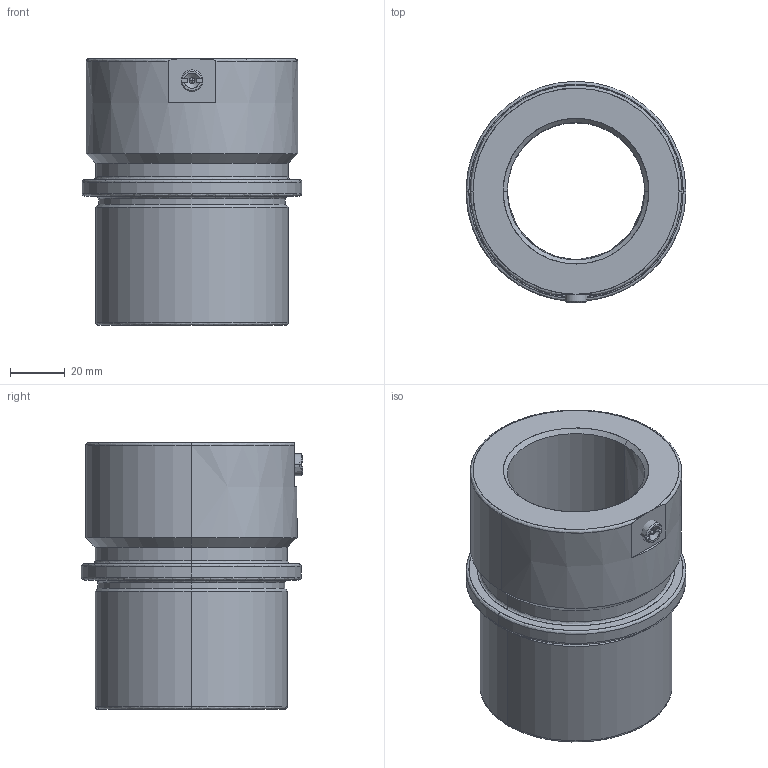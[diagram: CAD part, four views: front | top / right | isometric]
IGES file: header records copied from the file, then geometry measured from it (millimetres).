
Start section: START RECORD GO HERE.
Global section: file name: 744-50.igs; native system: DASSAULT SYSTEMES CATIA V5 R20 - www.3ds.com; preprocessor: CATIA Version 5 Release 20 ; author: Utente; organization: NB04-ASUS; date: 20201223.221007; units: millimetre
Bounding box: 80 x 80.5 x 97 mm (x, y, z)
Surface area: 44787.2 mm2 (no closed solid volume)
Topology: 0 solids, 0 shells, 67 faces, 306 edges, 302 vertices
Faces by surface type: revolution 51, plane 16
